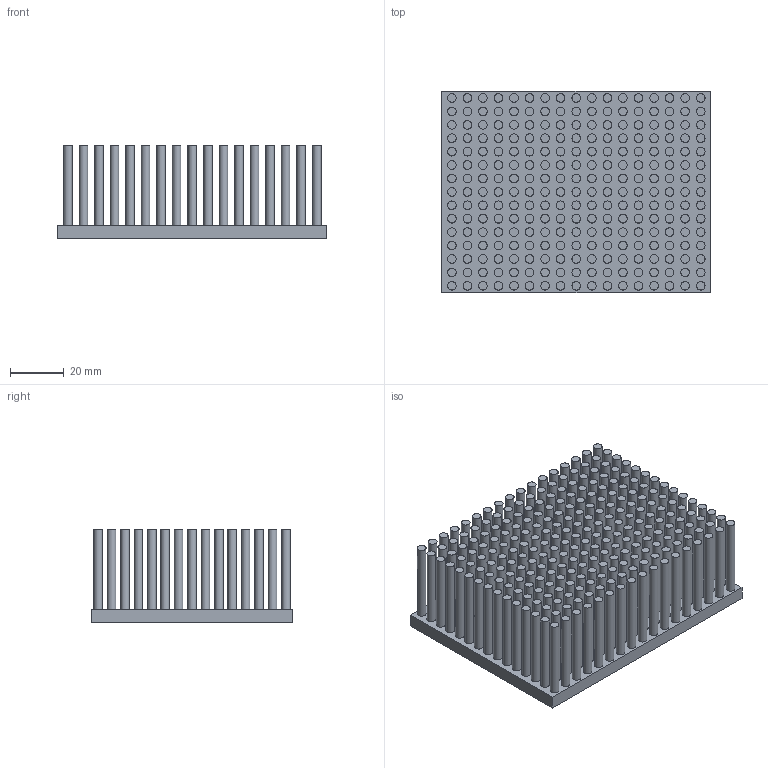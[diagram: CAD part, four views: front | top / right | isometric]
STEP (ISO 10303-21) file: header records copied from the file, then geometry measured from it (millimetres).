
FILE_DESCRIPTION(/* description */ (''),/* implementation_level */ '2;1');
FILE_NAME(/* name */ 'PB10075-255.stp',/* time_stamp */ '2013-08-21T09:04:29+08:00',/* author */ (''),/* organization */ (''),/* preprocessor_version */ 'ST-DEVELOPER v14',/* originating_system */ 'SIEMENS PLM Software NX 8.0',/* authorisation */ '');
FILE_SCHEMA (('CONFIG_CONTROL_DESIGN'));
Length unit declared in the file: millimetre
Products named in the file (1): PB10075-255
Bounding box: 100 x 75 x 35 mm (x, y, z)
Volume: 99025 mm3; surface area: 93656.2 mm2
Topology: 1 solids, 1 shells, 516 faces, 777 edges, 518 vertices
Faces by surface type: plane 261, cylinder 255
Full cylindrical faces by diameter (mm): 3.2 x255
Entity records: 10440 total; most frequent: DIRECTION 2066, CARTESIAN_POINT 1557, ORIENTED_EDGE 1044, AXIS2_PLACEMENT_3D 1027, EDGE_LOOP 1026, FACE_BOUND 766, EDGE_CURVE 522, VERTEX_POINT 518
